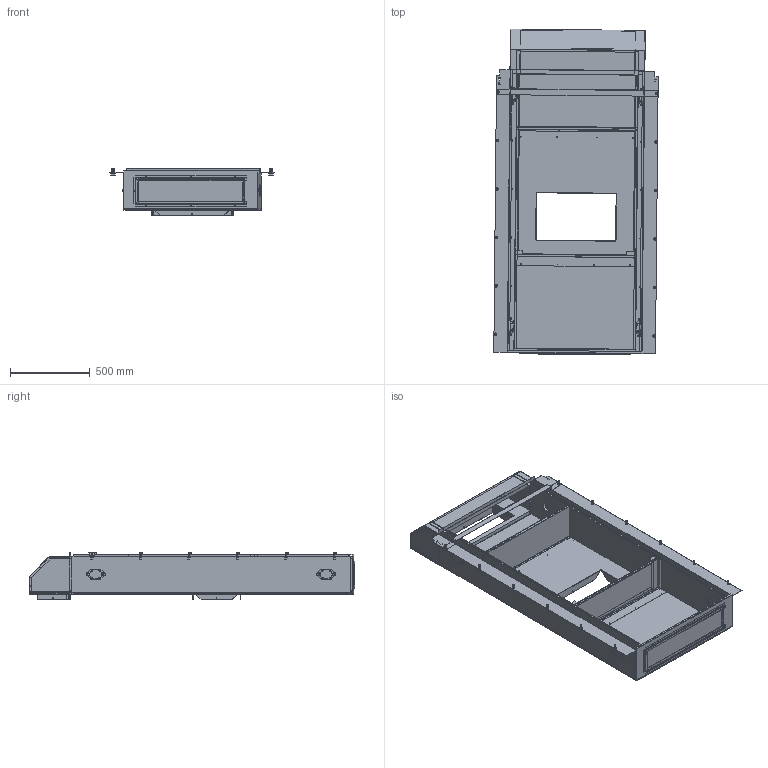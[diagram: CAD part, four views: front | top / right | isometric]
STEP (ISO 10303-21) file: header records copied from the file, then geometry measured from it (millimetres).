
FILE_DESCRIPTION (( 'STEP AP214' ), '1' );
FILE_NAME ('TFCT-32X.STEP', '2017-06-14T20:59:19', ( 'BMC' ), ( 'Bard Manufacturing Co., Inc.' ), 'SwSTEP 2.0', 'SolidWorks 2017', '' );
FILE_SCHEMA (( 'AUTOMOTIVE_DESIGN' ));
Length unit declared in the file: inch
Products named in the file (1): TFCT-32X
Bounding box: 1033.47 x 2047.85 x 300.57 mm (x, y, z)
Volume: 31763415.1 mm3; surface area: 13695013.2 mm2
Topology: 71 solids, 71 shells, 5119 faces, 12679 edges, 7610 vertices
Faces by surface type: plane 2130, bspline 1095, cylinder 930, cone 768, torus 180, sphere 16
Entity records: 279564 total; most frequent: CARTESIAN_POINT 98116, ORIENTED_EDGE 24782, DIRECTION 21271, EDGE_CURVE 12391, VERTEX_POINT 7610, AXIS2_PLACEMENT_3D 7217, LINE 6837, VECTOR 6837
